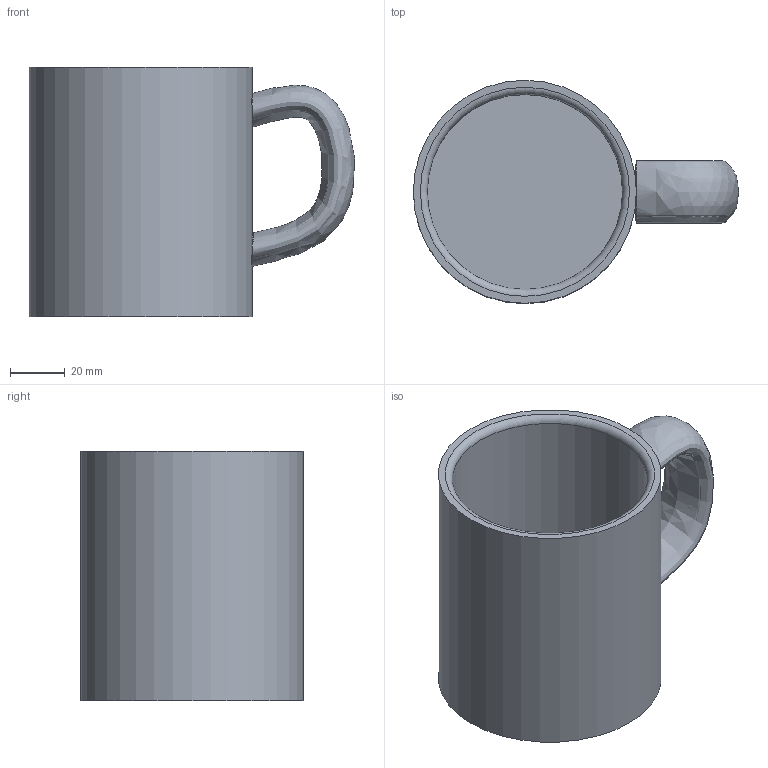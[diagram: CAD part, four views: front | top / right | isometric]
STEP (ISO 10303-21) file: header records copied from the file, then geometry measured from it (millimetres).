
FILE_DESCRIPTION(/* description */ ('STEP AP242','CAx-IF Rec.Pracs.---Representation and Presentation of Product Manufacturing Information (PMI)---4.0---2014-10-13','CAx-IF Rec.Pracs.---3D Tessellated Geometry---0.4---2014-09-14','2;1'),/* implementation_level */ '2;1');
FILE_NAME(/* name */ '67a36bb3f9cd3514cae2deb0',/* time_stamp */ '2025-02-05T13:46:28Z',/* author */ (''),/* organization */ (''),/* preprocessor_version */ 'ST-DEVELOPER v20',/* originating_system */ 'ONSHAPE BY PTC INC, 1.193',/* authorisation */ ' ');
FILE_SCHEMA (('AP242_MANAGED_MODEL_BASED_3D_ENGINEERING_MIM_LF { 1 0 10303 442 1 1 4 }'));
Length unit declared in the file: metre
Products named in the file (3): Part 1; Part 2; Part 3
Bounding box: 118.55 x 81.31 x 90.93 mm (x, y, z)
Volume: 167554 mm3; surface area: 63742.5 mm2
Topology: 3 solids, 3 shells, 12 faces, 14 edges, 9 vertices
Faces by surface type: plane 7, cylinder 2, bspline 2, torus 1
Full cylindrical faces by diameter (mm): 71.146 x1, 81.306 x1
Entity records: 726 total; most frequent: CARTESIAN_POINT 479, DIRECTION 44, AXIS2_PLACEMENT_3D 22, ORIENTED_EDGE 18, EDGE_LOOP 18, FACE_BOUND 18, ADVANCED_FACE 12, EDGE_CURVE 9
